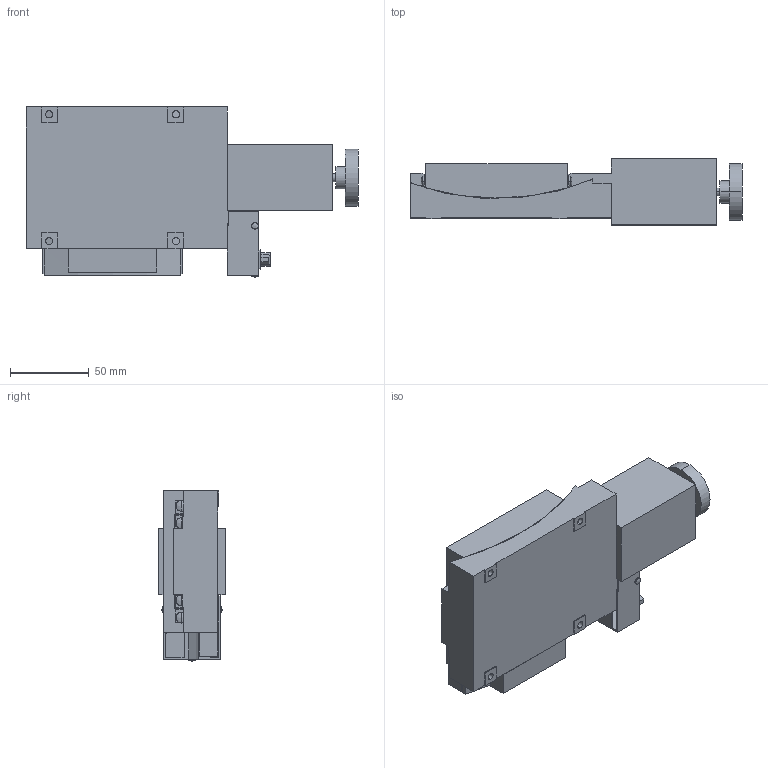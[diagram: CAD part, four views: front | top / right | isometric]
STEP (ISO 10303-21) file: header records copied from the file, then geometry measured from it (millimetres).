
FILE_DESCRIPTION (( 'STEP AP203' ), '1' );
FILE_NAME ('ATS-C912-HP.STEP', '2008-03-27T02:20:16', ( '' ), ( '' ), 'SwSTEP 2.0', 'SolidWorks 2007', '' );
FILE_SCHEMA (( 'CONFIG_CONTROL_DESIGN' ));
Length unit declared in the file: millimetre
Products named in the file (3): ATS-C912-HP; ATS-C912-HP-2_蹬怮椔; ATS-C912-HP-1_蹬怮椔
Assembly tree (2 placements, depth 2):
  ATS-C912-HP
    ATS-C912-HP-1_蹬怮椔
    ATS-C912-HP-2_蹬怮椔
Bounding box: 211 x 42 x 108.16 mm (x, y, z)
Volume: 540889.2 mm3; surface area: 91792.1 mm2
Topology: 2 solids, 2 shells, 376 faces, 943 edges, 606 vertices
Faces by surface type: plane 222, cylinder 105, cone 30, sphere 16, bspline 3
Entity records: 12740 total; most frequent: CARTESIAN_POINT 3277, DIRECTION 1915, ORIENTED_EDGE 1870, EDGE_CURVE 935, AXIS2_PLACEMENT_3D 648, VECTOR 619, LINE 619, VERTEX_POINT 606
